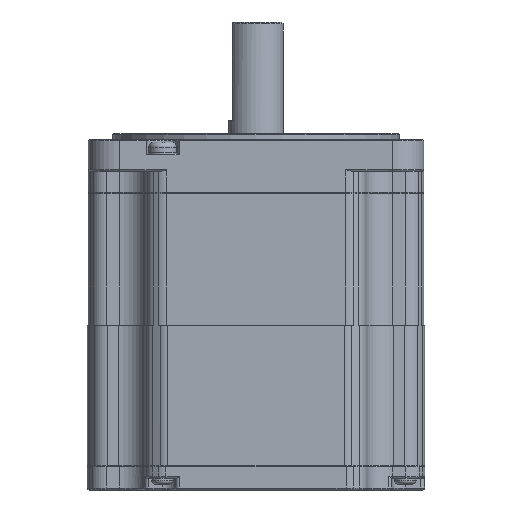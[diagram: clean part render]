
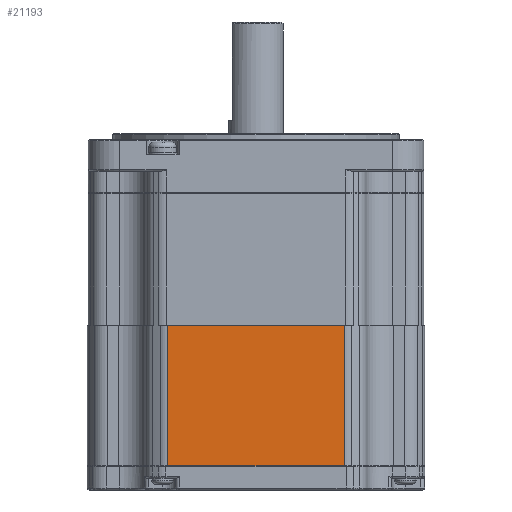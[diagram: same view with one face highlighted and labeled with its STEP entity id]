
A CAD part, front view. The second image highlights one B-rep face of the part: STEP entity #21193.
In plain terms, the highlighted planar face has unit normal (0, -1, 0).
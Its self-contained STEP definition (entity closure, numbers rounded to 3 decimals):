
#2067 = DIRECTION ( 'NONE',  ( 0., 0., 1. ) ) ;
#3997 = VECTOR ( 'NONE', #19068, 1000. ) ;
#4977 = VECTOR ( 'NONE', #24600, 1000. ) ;
#5081 = ORIENTED_EDGE ( 'NONE', *, *, #9441, .T. ) ;
#5162 = CARTESIAN_POINT ( 'NONE',  ( 22.45, -43., -83.1 ) ) ;
#5507 = EDGE_CURVE ( 'NONE', #6389, #6459, #9652, .T. ) ;
#6389 = VERTEX_POINT ( 'NONE', #19838 ) ;
#6459 = VERTEX_POINT ( 'NONE', #13581 ) ;
#7538 = DIRECTION ( 'NONE',  ( 0., 0., 1. ) ) ;
#8809 = ORIENTED_EDGE ( 'NONE', *, *, #5507, .T. ) ;
#9441 = EDGE_CURVE ( 'NONE', #14183, #10399, #10635, .T. ) ;
#9652 = LINE ( 'NONE', #19433, #3997 ) ;
#10399 = VERTEX_POINT ( 'NONE', #10876 ) ;
#10581 = CARTESIAN_POINT ( 'NONE',  ( -22.45, -43., -83.3 ) ) ;
#10635 = LINE ( 'NONE', #5162, #4977 ) ;
#10876 = CARTESIAN_POINT ( 'NONE',  ( 22.45, -43., -83.1 ) ) ;
#11271 = AXIS2_PLACEMENT_3D ( 'NONE', #24761, #20504, #7538 ) ;
#12361 = CARTESIAN_POINT ( 'NONE',  ( 22.45, -43., -83.3 ) ) ;
#12812 = ORIENTED_EDGE ( 'NONE', *, *, #17877, .T. ) ;
#13581 = CARTESIAN_POINT ( 'NONE',  ( -22.45, -43., -47.3 ) ) ;
#13959 = PLANE ( 'NONE',  #11271 ) ;
#14183 = VERTEX_POINT ( 'NONE', #17374 ) ;
#15384 = VECTOR ( 'NONE', #2067, 1000. ) ;
#16013 = LINE ( 'NONE', #10581, #21076 ) ;
#16053 = LINE ( 'NONE', #12361, #15384 ) ;
#16843 = EDGE_LOOP ( 'NONE', ( #17550, #5081, #12812, #8809 ) ) ;
#17241 = DIRECTION ( 'NONE',  ( 0., 0., 1. ) ) ;
#17374 = CARTESIAN_POINT ( 'NONE',  ( -22.45, -43., -83.1 ) ) ;
#17550 = ORIENTED_EDGE ( 'NONE', *, *, #27781, .F. ) ;
#17877 = EDGE_CURVE ( 'NONE', #10399, #6389, #16053, .T. ) ;
#19068 = DIRECTION ( 'NONE',  ( -1., 0., 0. ) ) ;
#19433 = CARTESIAN_POINT ( 'NONE',  ( 22.45, -43., -47.3 ) ) ;
#19838 = CARTESIAN_POINT ( 'NONE',  ( 22.45, -43., -47.3 ) ) ;
#19951 = FACE_OUTER_BOUND ( 'NONE', #16843, .T. ) ;
#20504 = DIRECTION ( 'NONE',  ( 0., 1., 0. ) ) ;
#21076 = VECTOR ( 'NONE', #17241, 1000. ) ;
#21193 = ADVANCED_FACE ( 'NONE', ( #19951 ), #13959, .F. ) ;
#24600 = DIRECTION ( 'NONE',  ( 1., 0., 0. ) ) ;
#24761 = CARTESIAN_POINT ( 'NONE',  ( 22.45, -43., -83.3 ) ) ;
#27781 = EDGE_CURVE ( 'NONE', #14183, #6459, #16013, .T. ) ;
